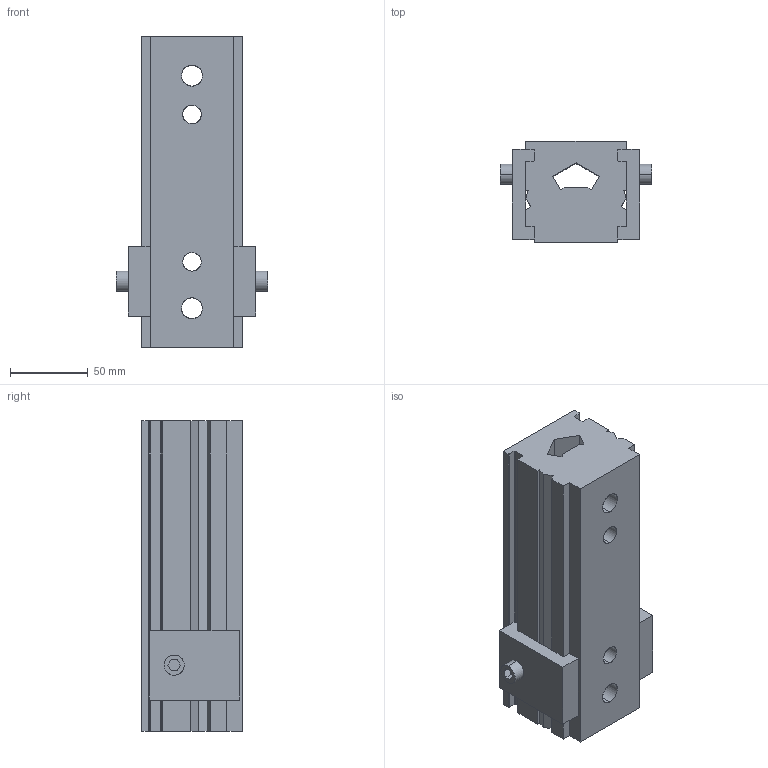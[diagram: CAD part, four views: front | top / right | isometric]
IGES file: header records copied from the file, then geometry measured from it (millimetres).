
Start section: START RECORD GO HERE.
Global section: file name: A945-03-0620-01-S-BC.igs; native system: DASSAULT SYSTEMES CATIA V5 R20 - www.3ds.com; preprocessor: CATIA Version 5 Release 20 ; author: Utente; organization: NB04-ASUS; date: 20200417.135631; units: millimetre
Bounding box: 98 x 65 x 200 mm (x, y, z)
Surface area: 93867.2 mm2 (no closed solid volume)
Topology: 0 solids, 0 shells, 121 faces, 682 edges, 682 vertices
Faces by surface type: extrusion 97, revolution 24
